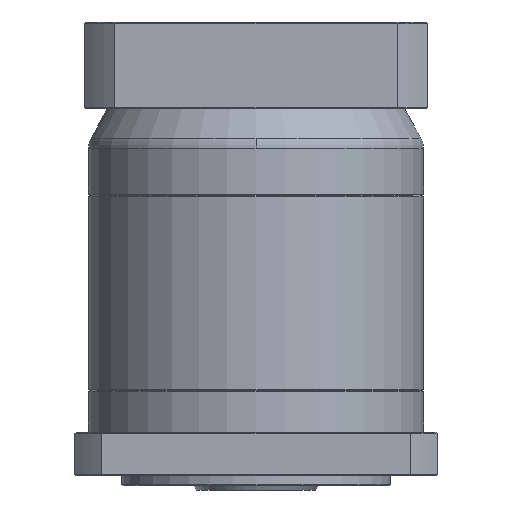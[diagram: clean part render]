
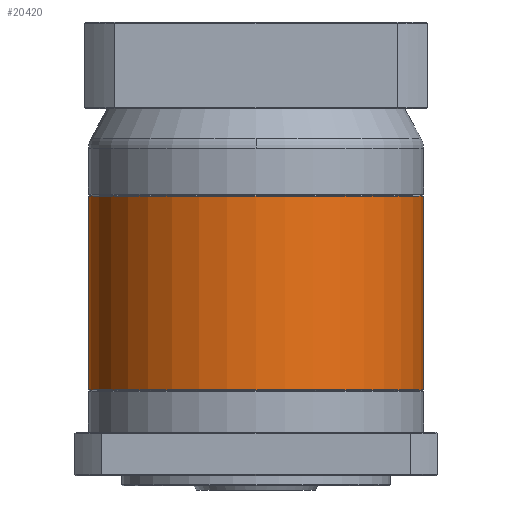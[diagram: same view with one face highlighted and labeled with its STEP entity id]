
A CAD part, front view. The second image highlights one B-rep face of the part: STEP entity #20420.
In plain terms, the highlighted cylindrical face has radius 81 mm (diameter 162 mm), a partial arc.
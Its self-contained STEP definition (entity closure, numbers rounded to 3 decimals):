
#2613 = ORIENTED_EDGE ( 'NONE', *, *, #110649, .T. ) ;
#10092 = ORIENTED_EDGE ( 'NONE', *, *, #37244, .T. ) ;
#13313 = VERTEX_POINT ( 'NONE', #100444 ) ;
#14897 = DIRECTION ( 'NONE',  ( 0., 0., -1. ) ) ;
#15457 = VECTOR ( 'NONE', #25725, 1000. ) ;
#20420 = ADVANCED_FACE ( 'NONE', ( #108128 ), #25941, .T. ) ;
#22777 = VERTEX_POINT ( 'NONE', #35671 ) ;
#24361 = EDGE_LOOP ( 'NONE', ( #27509, #10092, #2613, #104503 ) ) ;
#25639 = EDGE_CURVE ( 'NONE', #59118, #22777, #36913, .T. ) ;
#25725 = DIRECTION ( 'NONE',  ( 0., 0., -1. ) ) ;
#25941 = CYLINDRICAL_SURFACE ( 'NONE', #90601, 81. ) ;
#26257 = DIRECTION ( 'NONE',  ( 0., 0., 1. ) ) ;
#27509 = ORIENTED_EDGE ( 'NONE', *, *, #105002, .F. ) ;
#31826 = DIRECTION ( 'NONE',  ( -1., 0., 0. ) ) ;
#34246 = CARTESIAN_POINT ( 'NONE',  ( 33.493, -5.561, 273.25 ) ) ;
#35671 = CARTESIAN_POINT ( 'NONE',  ( 33.493, -5.561, 179.75 ) ) ;
#36913 = CIRCLE ( 'NONE', #126944, 81. ) ;
#37244 = EDGE_CURVE ( 'NONE', #65094, #13313, #67526, .T. ) ;
#41181 = VECTOR ( 'NONE', #14897, 1000. ) ;
#41855 = DIRECTION ( 'NONE',  ( 0., 0., -1. ) ) ;
#44293 = LINE ( 'NONE', #54313, #41181 ) ;
#54313 = CARTESIAN_POINT ( 'NONE',  ( 33.493, -5.561, 273.75 ) ) ;
#56648 = AXIS2_PLACEMENT_3D ( 'NONE', #119302, #41855, #31826 ) ;
#58918 = DIRECTION ( 'NONE',  ( -1., 0., 0. ) ) ;
#59118 = VERTEX_POINT ( 'NONE', #118079 ) ;
#65094 = VERTEX_POINT ( 'NONE', #34246 ) ;
#67526 = CIRCLE ( 'NONE', #56648, 81. ) ;
#67917 = CARTESIAN_POINT ( 'NONE',  ( -47.507, -5.561, 273.75 ) ) ;
#72661 = LINE ( 'NONE', #114017, #15457 ) ;
#90601 = AXIS2_PLACEMENT_3D ( 'NONE', #67917, #128518, #58918 ) ;
#100444 = CARTESIAN_POINT ( 'NONE',  ( -128.507, -5.561, 273.25 ) ) ;
#104503 = ORIENTED_EDGE ( 'NONE', *, *, #25639, .T. ) ;
#105002 = EDGE_CURVE ( 'NONE', #65094, #22777, #44293, .T. ) ;
#105461 = DIRECTION ( 'NONE',  ( -1., 0., 0. ) ) ;
#108128 = FACE_OUTER_BOUND ( 'NONE', #24361, .T. ) ;
#110649 = EDGE_CURVE ( 'NONE', #13313, #59118, #72661, .T. ) ;
#114017 = CARTESIAN_POINT ( 'NONE',  ( -128.507, -5.561, 273.75 ) ) ;
#118079 = CARTESIAN_POINT ( 'NONE',  ( -128.507, -5.561, 179.75 ) ) ;
#119302 = CARTESIAN_POINT ( 'NONE',  ( -47.507, -5.561, 273.25 ) ) ;
#126633 = CARTESIAN_POINT ( 'NONE',  ( -47.507, -5.561, 179.75 ) ) ;
#126944 = AXIS2_PLACEMENT_3D ( 'NONE', #126633, #26257, #105461 ) ;
#128518 = DIRECTION ( 'NONE',  ( 0., 0., -1. ) ) ;
